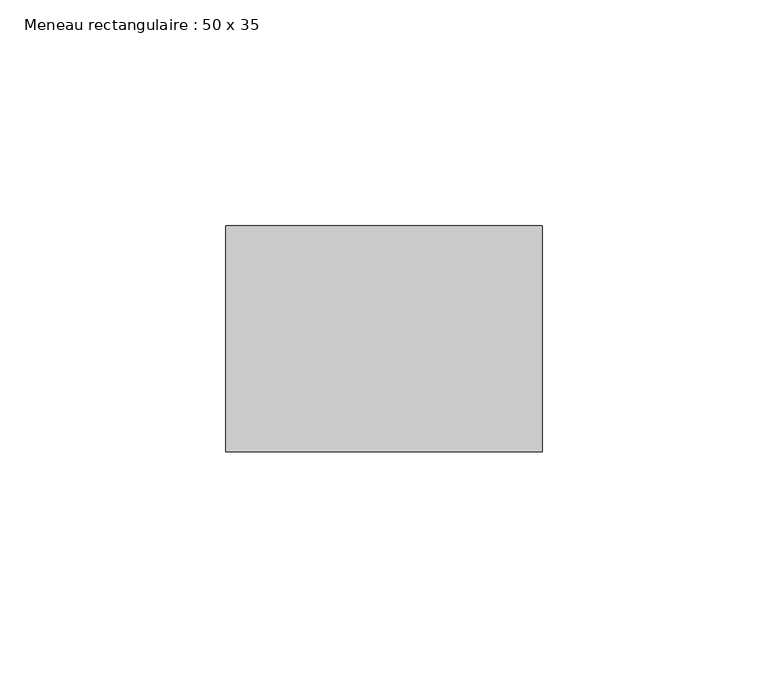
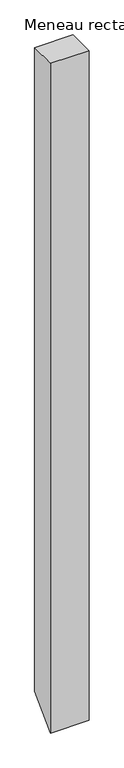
"""IFC4 building model written with IfcOpenShell, lengths in millimetres: member geometry, Meneau rectangulaire : 50 x 35."""

from ifc_helpers import new_model, si_unit, frame, origin, place, context, project, spatial, polyline, outline, extrude, source, transform, mapped, element, save


def meneau_rectangulaire_50_x_35_125d4a52(model_context):
    return source(origin(), model_context, "Body", "SweptSolid", [
        extrude(outline(polyline([(-50.0, 0.0), (0.0, 0.0), (0.0, -1238.6548128), (-50.0, -1288.6548128), (-50.0, 0.0)])), frame((-70.0, 0.0, 0.0), z_axis=(1.0, 0.0, 0.0), x_axis=(0.0, 1.0, 0.0)), (0.0, 0.0, 1.0), 70.0),
    ])


if __name__ == "__main__":
    model = new_model("IFC4")
    model_context = context("Model", 3, world=origin())
    ifc_project = project(units=[si_unit("LENGTHUNIT", "METRE", prefix="MILLI")], contexts=[model_context])
    site = spatial("IfcSite", under=ifc_project)
    building = spatial("IfcBuilding", under=site)
    placement = place(None, origin())
    meneau_rectangulaire_50_x_35_shape = meneau_rectangulaire_50_x_35_125d4a52(model_context)
    element("IfcMember", 1, ObjectType="Meneau rectangulaire : 50 x 35", at=placement, inside=building, context=model_context, shape_type="MappedRepresentation", body=[
        mapped(meneau_rectangulaire_50_x_35_shape, transform((0.0, 0.0, 0.0), x_axis=(1.0, 0.0, 0.0), y_axis=(0.0, 1.0, 0.0), z_axis=(0.0, 0.0, 1.0))),
    ])
    save(model, "model.ifc")
